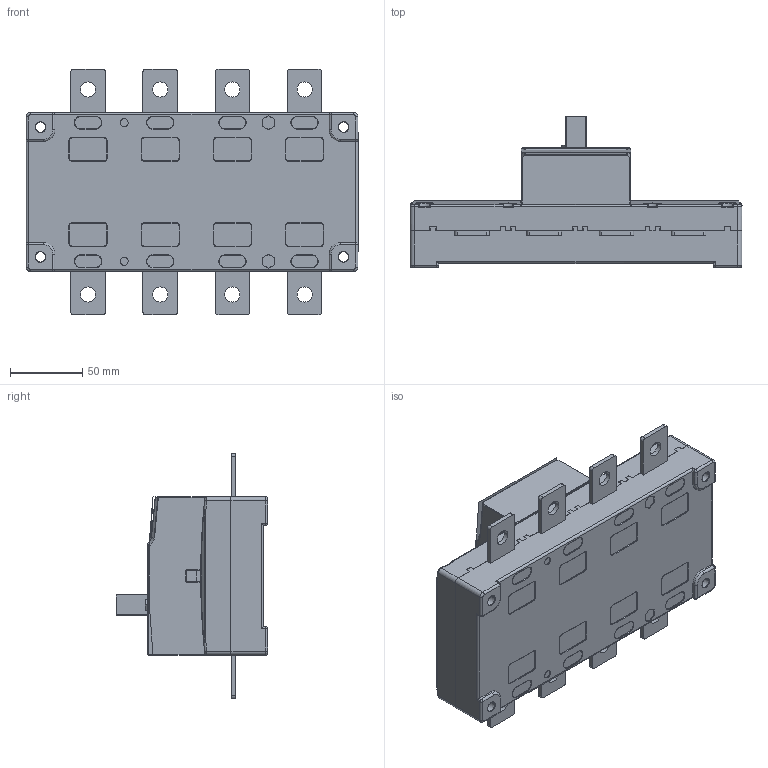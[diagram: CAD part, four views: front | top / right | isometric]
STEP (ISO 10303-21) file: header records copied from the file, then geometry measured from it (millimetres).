
FILE_DESCRIPTION((''),'2;1');
FILE_NAME('NH40-250-4_ASM','2018-05-15T',('zhuanghy'),(''),'PRO/ENGINEER BY PARAMETRIC TECHNOLOGY CORPORATION, 2008380','PRO/ENGINEER BY PARAMETRIC TECHNOLOGY CORPORATION, 2008380','');
FILE_SCHEMA(('CONFIG_CONTROL_DESIGN'));
Length unit declared in the file: millimetre
Products named in the file (7): 8ZTK-0022-106_95; 8ZTK-064-109_76; 8-310-035-03_8; PRT0039; PRT0040; ASM0005_ASM_2_ASM; NH40-250-4_ASM
Assembly tree (13 placements, depth 3):
  NH40-250-4_ASM
    ASM0005_ASM_2_ASM
      8ZTK-0022-106_95
      8ZTK-064-109_76
      8-310-035-03_8
      PRT0039  x8
      PRT0040
Bounding box: 230 x 105 x 170 mm (x, y, z)
Volume: 1233902 mm3; surface area: 245751.9 mm2
Topology: 12 solids, 13 shells, 1688 faces, 4596 edges, 2952 vertices
Faces by surface type: plane 811, cylinder 588, torus 151, bspline 47, sphere 45, extrusion 44, cone 2
Entity records: 54762 total; most frequent: CARTESIAN_POINT 14174, ORIENTED_EDGE 8603, DIRECTION 8361, EDGE_CURVE 4307, AXIS2_PLACEMENT_3D 2866, VERTEX_POINT 2784, VECTOR 2629, LINE 2585
